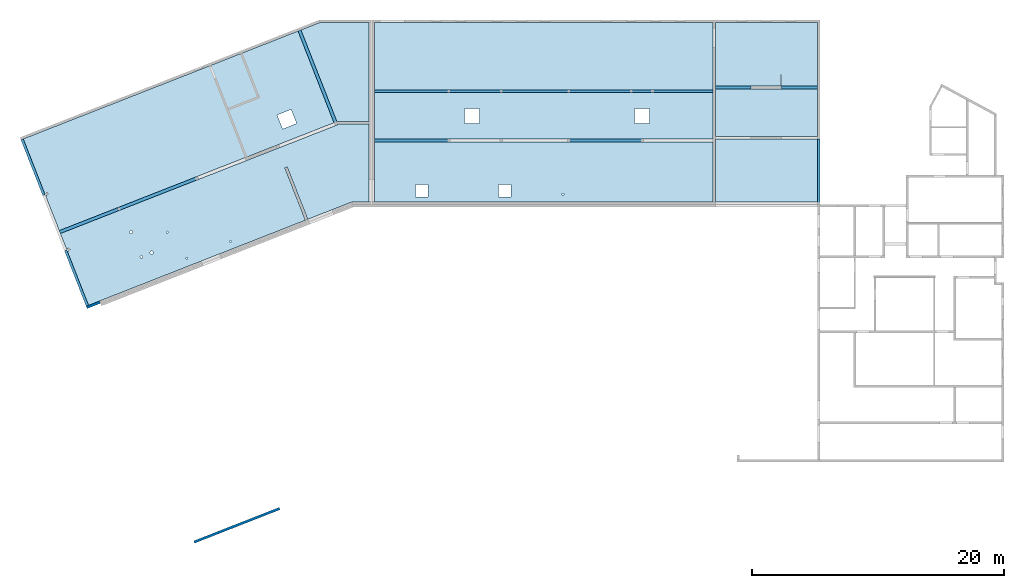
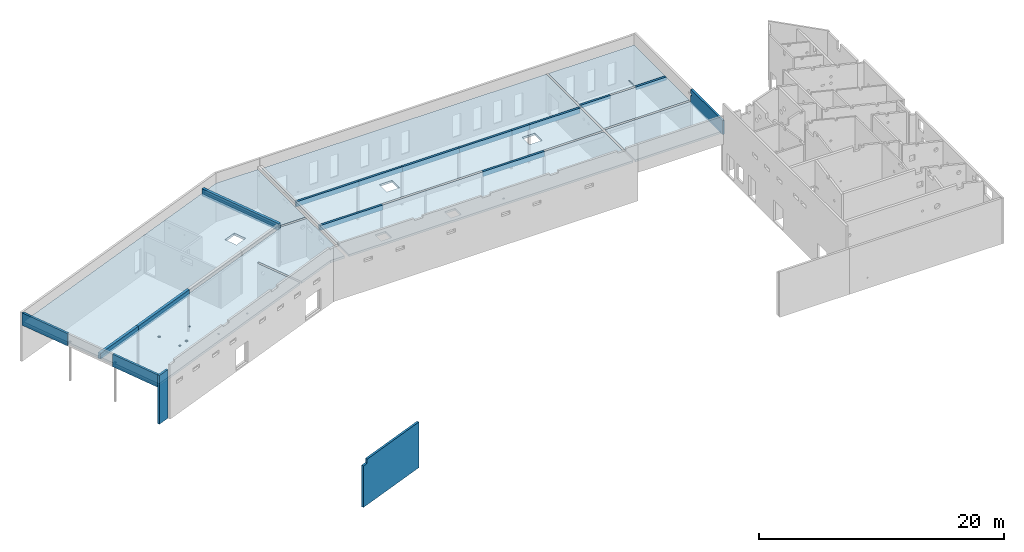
# One storey, part 2 of 13: 16 beams, 3 slabs, 2 walls, 15 openings.
"""IFC2X3 building model written with IfcOpenShell, lengths in metres."""

import ifcopenshell
import ifcopenshell.guid

model = None  # the IFC model being written
_history = None  # IfcOwnerHistory: only IFC2X3 demands one
_inside = {}  # id of a spatial element -> (the spatial element, [elements in it])
_under = {}  # id of a project, library or spatial element -> (it, [spatial elements below it])
_declared = {}  # id of a project -> (the project, [libraries it declares])
_typed = {}  # id of a type object -> (the type object, [elements of that type])
_made_of = {}  # id of a material, layer set ... -> (it, [elements and type objects made of it])


def new_model(schema):
    """Start an empty IFC model of exactly this schema.

    Asked for "IFC4X3", IfcOpenShell would pick the latest addendum, in which some entities
    have other attributes; the version numbers below select the first issue.
    IFC2X3 requires an IfcOwnerHistory on every rooted entity: one is made here for all.
    """
    global model, _history
    if schema == "IFC4X3":
        model = ifcopenshell.file(schema_version=(4, 3, 0, 0))
    else:
        model = ifcopenshell.file(schema=schema)
    _inside.clear()
    _under.clear()
    _declared.clear()
    _typed.clear()
    _made_of.clear()
    _history = None
    if model.schema == "IFC2X3":
        org = make("IfcOrganization", Name="unknown")
        user = make(
            "IfcPersonAndOrganization",
            ThePerson=make("IfcPerson", FamilyName="unknown"),
            TheOrganization=org,
        )
        app = make(
            "IfcApplication",
            ApplicationDeveloper=org,
            Version="unknown",
            ApplicationFullName="unknown",
            ApplicationIdentifier="unknown",
        )
        _history = make(
            "IfcOwnerHistory",
            OwningUser=user,
            OwningApplication=app,
            ChangeAction="ADDED",
            CreationDate=0,
        )
    return model


def make(cls, **values):
    """One entity of the class cls with the attributes given. An attribute that is None is left unset."""
    return model.create_entity(
        cls, **{name: value for name, value in values.items() if value is not None}
    )


def entity(cls, *values):
    """Any entity or typed value of the class cls, its attributes in the order of the schema. None: left unset."""
    e = model.create_entity(cls)
    for i, value in enumerate(values):
        if value is not None:
            e[i] = value
    return e


def rooted(cls, **values):
    """An entity with a GlobalId (a new one), such as an element, a storey or a relation."""
    return make(cls, GlobalId=ifcopenshell.guid.new(), OwnerHistory=_history, **values)


def si_unit(unit_type, name, prefix=None):
    """IfcSIUnit, for example si_unit("LENGTHUNIT", "METRE", prefix="MILLI")."""
    return make("IfcSIUnit", UnitType=unit_type, Prefix=prefix, Name=name)


def converted_unit(unit_type, name, factor, base, dimensions=None, offset=None):
    """IfcConversionBasedUnit, such as the inch: factor (a typed value) times the base unit."""
    return make(
        "IfcConversionBasedUnit"
        if offset is None
        else "IfcConversionBasedUnitWithOffset",
        ConversionOffset=offset,
        Dimensions=None
        if dimensions is None
        else entity("IfcDimensionalExponents", *dimensions),
        UnitType=unit_type,
        Name=name,
        ConversionFactor=make(
            "IfcMeasureWithUnit", ValueComponent=factor, UnitComponent=base
        ),
    )


def assignment(units):
    """IfcUnitAssignment: the units of a project."""
    return None if units is None else make("IfcUnitAssignment", Units=units)


def point(xyz):
    """IfcCartesianPoint."""
    return None if xyz is None else make("IfcCartesianPoint", Coordinates=xyz)


def direction(xyz):
    """IfcDirection."""
    return None if xyz is None else make("IfcDirection", DirectionRatios=xyz)


def frame(location, z_axis=None, x_axis=None):
    """IfcAxis2Placement3D, a coordinate frame: its origin and axes. An axis left out is left unset."""
    return make(
        "IfcAxis2Placement3D",
        Location=point(location),
        Axis=direction(z_axis),
        RefDirection=direction(x_axis),
    )


def frame_2d(location, x_axis=None):
    """IfcAxis2Placement2D, a coordinate frame in the plane: its origin and x axis."""
    return make(
        "IfcAxis2Placement2D", Location=point(location), RefDirection=direction(x_axis)
    )


def origin():
    """The frame at (0, 0, 0) with its axes left unset."""
    return frame((0.0, 0.0, 0.0))


def origin_with_axes():
    """The frame at (0, 0, 0) with the z axis (0, 0, 1) and the x axis (1, 0, 0) written out."""
    return frame((0.0, 0.0, 0.0), z_axis=(0.0, 0.0, 1.0), x_axis=(1.0, 0.0, 0.0))


def origin_2d_with_axis():
    """The frame at (0, 0) in the plane with the x axis (1, 0) written out."""
    return frame_2d((0.0, 0.0), x_axis=(1.0, 0.0))


def place(relative_to, where):
    """IfcLocalPlacement: puts the frame where relative to a parent placement (None: the world)."""
    return make(
        "IfcLocalPlacement", PlacementRelTo=relative_to, RelativePlacement=where
    )


def context(
    kind, dimensions, precision=None, world=None, true_north=None, identifier=None
):
    """IfcGeometricRepresentationContext, for example the 3D "Model" context."""
    return make(
        "IfcGeometricRepresentationContext",
        ContextIdentifier=identifier,
        ContextType=kind,
        CoordinateSpaceDimension=dimensions,
        Precision=precision,
        WorldCoordinateSystem=world,
        TrueNorth=true_north,
    )


def subcontext(parent, identifier, kind, view, scale=None):
    """IfcGeometricRepresentationSubContext, for example "Body" below "Model"."""
    return make(
        "IfcGeometricRepresentationSubContext",
        ContextIdentifier=identifier,
        ContextType=kind,
        ParentContext=parent,
        TargetScale=scale,
        TargetView=view,
    )


def project(units=None, contexts=None):
    """IfcProject with its units and contexts."""
    return rooted(
        "IfcProject",
        Name="project",
        RepresentationContexts=contexts,
        UnitsInContext=assignment(units),
    )


def spatial(cls, under=None, at=None, **own):
    """A site, building, storey or space (cls), placed at a placement, below another one or the project."""
    s = rooted(cls, ObjectPlacement=at, **own)
    if under is not None:
        _under.setdefault(under.id(), (under, []))[1].append(s)
    return s


def polyline(points):
    """IfcPolyline through the points."""
    return make("IfcPolyline", Points=[point(p) for p in points])


def profile(cls, at=None, kind="AREA", **sizes):
    """A parametric profile (cls). Its sizes go by their IFC names, for example OverallWidth=200.0."""
    return make(cls, ProfileType=kind, Position=at, **sizes)


def rectangle(**sizes):
    """IfcRectangleProfileDef."""
    return profile("IfcRectangleProfileDef", **sizes)


def circle(**sizes):
    """IfcCircleProfileDef."""
    return profile("IfcCircleProfileDef", **sizes)


def outline(outer, holes=None, kind="AREA"):
    """IfcArbitraryClosedProfileDef: a profile drawn as a closed curve; with holes, ...WithVoids."""
    if holes is None:
        return make("IfcArbitraryClosedProfileDef", ProfileType=kind, OuterCurve=outer)
    return make(
        "IfcArbitraryProfileDefWithVoids",
        ProfileType=kind,
        OuterCurve=outer,
        InnerCurves=holes,
    )


def extrude(swept, where, along, depth):
    """IfcExtrudedAreaSolid: the profile swept, set in the frame where, extruded along a direction by depth."""
    return make(
        "IfcExtrudedAreaSolid",
        SweptArea=swept,
        Position=where,
        ExtrudedDirection=direction(along),
        Depth=depth,
    )


def faces_of(points, faces, orient=None, outer=None):
    """IfcFace entities. A face is a list of loops; a loop is a list of indices into points, from 0.

    orient and outer hold one flag for each loop. By default every Orientation is true, the
    first loop of a face is its IfcFaceOuterBound and the others are IfcFaceBound.
    """
    made = []
    for i, loops in enumerate(faces):
        bounds = []
        for j, loop in enumerate(loops):
            is_outer = j == 0 if outer is None else outer[i][j]
            bounds.append(
                make(
                    "IfcFaceOuterBound" if is_outer else "IfcFaceBound",
                    Bound=make("IfcPolyLoop", Polygon=[points[k] for k in loop]),
                    Orientation=True if orient is None else orient[i][j],
                )
            )
        made.append(make("IfcFace", Bounds=bounds))
    return made


def faceted_brep(points, faces, orient=None, outer=None, voids=None):
    """IfcFacetedBrep: a solid bounded by flat faces; with voids (closed shells), ...WithVoids."""
    shared = [point(p) for p in points]
    hull = make("IfcClosedShell", CfsFaces=faces_of(shared, faces, orient, outer))
    if voids is None:
        return make("IfcFacetedBrep", Outer=hull)
    return make(
        "IfcFacetedBrepWithVoids",
        Outer=hull,
        Voids=[
            make(cls, CfsFaces=faces_of(shared, fs, o, b)) for cls, fs, o, b in voids
        ],
    )


def shape(context_of_items, identifier, shape_type, items):
    """IfcShapeRepresentation: the items that make up one representation, for example the "Body"."""
    return make(
        "IfcShapeRepresentation",
        ContextOfItems=context_of_items,
        RepresentationIdentifier=identifier,
        RepresentationType=shape_type,
        Items=items,
    )


def material(Name=None, Category=None):
    """IfcMaterial."""
    return make("IfcMaterial", Name=Name, Category=Category)


def layer(
    of_material, thickness, ventilated=None, Name=None, Category=None, Priority=None
):
    """IfcMaterialLayer: one layer of a wall or slab, of a material (None: an air gap)."""
    return make(
        "IfcMaterialLayer",
        Material=of_material,
        LayerThickness=thickness,
        IsVentilated=ventilated,
        Name=Name,
        Category=Category,
        Priority=Priority,
    )


def layer_set(layers, Name=None):
    """IfcMaterialLayerSet."""
    return make("IfcMaterialLayerSet", MaterialLayers=layers, LayerSetName=Name)


def layer_usage(for_layer_set, set_direction, sense, offset, extent=None):
    """IfcMaterialLayerSetUsage: how a layer set lies in its element."""
    return make(
        "IfcMaterialLayerSetUsage",
        ForLayerSet=for_layer_set,
        LayerSetDirection=set_direction,
        DirectionSense=sense,
        OffsetFromReferenceLine=offset,
        ReferenceExtent=extent,
    )


def made_of(thing, what):
    """Note that an element or type object is made of a material, layer set ...; save() writes the relation."""
    if what is not None:
        _made_of.setdefault(what.id(), (what, []))[1].append(thing)
    return thing


def element(
    cls,
    number,
    at=None,
    inside=None,
    cuts=None,
    type_object=None,
    material=None,
    context=None,
    identifier="Body",
    shape_type=None,
    held_by="IfcProductDefinitionShape",
    body=None,
    shapes=None,
    **own,
):
    """One element of the class cls, such as IfcWall. Its Tag is "e" and its number.

    at: its placement. inside: the storey or other place that contains it. cuts: it is an
    opening in that element (IfcRelVoidsElement). A single representation is given by context,
    identifier, shape_type and body (its items); several are given by shapes. held_by: the class
    of the entity that holds the representations. save() writes the other relations.
    """
    e = rooted(cls, Tag="e%d" % number, ObjectPlacement=at, **own)
    if body is not None:
        shapes = [shape(context, identifier, shape_type, body)]
    if shapes is not None:
        e.Representation = make(held_by, Representations=shapes)
    if inside is not None:
        _inside.setdefault(inside.id(), (inside, []))[1].append(e)
    if cuts is not None:
        rooted(
            "IfcRelVoidsElement", RelatingBuildingElement=cuts, RelatedOpeningElement=e
        )
    if type_object is not None:
        _typed.setdefault(type_object.id(), (type_object, []))[1].append(e)
    return made_of(e, material)


def aggregate(whole, parts):
    """IfcRelAggregates: a whole, such as a stair, and the parts it consists of."""
    return rooted("IfcRelAggregates", RelatingObject=whole, RelatedObjects=parts)


def save(model, path):
    """Write the relations noted so far, then the file.

    IfcRelAggregates (storeys below a building ...), IfcRelContainedInSpatialStructure (elements
    in a storey), IfcRelDefinesByType, IfcRelAssociatesMaterial and IfcRelDeclares: one each for
    every whole, place, type object, material and project.
    """
    for whole, parts in _under.values():
        aggregate(whole, parts)
    for where, things in _inside.values():
        rooted(
            "IfcRelContainedInSpatialStructure",
            RelatedElements=things,
            RelatingStructure=where,
        )
    for kind, things in _typed.values():
        rooted("IfcRelDefinesByType", RelatedObjects=things, RelatingType=kind)
    for what, things in _made_of.values():
        rooted("IfcRelAssociatesMaterial", RelatedObjects=things, RelatingMaterial=what)
    for by, libraries in _declared.values():
        rooted("IfcRelDeclares", RelatingContext=by, RelatedDefinitions=libraries)
    model.write(path)


model = new_model("IFC2X3")

# Units and contexts
model_context = context("Model", 3, precision=1e-05, world=origin(), true_north=direction((-0.407059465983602, -0.913401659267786)))
body_context = subcontext(model_context, "Body", "Model", "MODEL_VIEW")
ifc_project = project(units=[si_unit("LENGTHUNIT", "METRE"), si_unit("AREAUNIT", "SQUARE_METRE"), si_unit("VOLUMEUNIT", "CUBIC_METRE"), si_unit("MASSUNIT", "GRAM", prefix="KILO"), converted_unit("PLANEANGLEUNIT", "DEGREE", entity("IfcPlaneAngleMeasure", 0.0174532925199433), si_unit("PLANEANGLEUNIT", "RADIAN"), dimensions=[0, 0, 0, 0, 0, 0, 0])], contexts=[model_context])

# Site, buildings, storey
site_placement = place(None, origin())
site = spatial("IfcSite", under=ifc_project, at=site_placement, Name="Site", CompositionType="ELEMENT")
building_1_placement = place(site_placement, origin())
building_1 = spatial("IfcBuilding", under=site, at=building_1_placement, Name="Site", CompositionType="COMPLEX")
building_2_placement = place(building_1_placement, origin())
building_2 = spatial("IfcBuilding", under=building_1, at=building_2_placement, Name="Bâtiments", CompositionType="ELEMENT")
storey_placement = place(building_2_placement, frame((0.0, 0.0, -0.14)))
storey = spatial("IfcBuildingStorey", under=building_2, at=storey_placement, Name="RDC", CompositionType="ELEMENT", Elevation=-0.14)

# Beams
ifc_material_1 = material(Name="Béton")
beam_1_placement = place(storey_placement, frame((63.2133902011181, 4.15588101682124, 3.54), z_axis=(0.0, 0.0, 1.0), x_axis=(-1.0, -4.68224899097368e-10, 0.0)))
element("IfcBeam", 1, at=beam_1_placement, inside=storey, material=ifc_material_1, Name="Po 112", context=body_context, shape_type="SweptSolid", body=[
    extrude(rectangle(XDim=0.200000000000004, YDim=0.3, at=frame_2d((0.100000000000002, 0.15), x_axis=(1.0, 0.0))), frame((0.0, 0.0, 0.0), z_axis=(1.0, 0.0, 0.0), x_axis=(0.0, 1.0, 0.0)), (0.0, 0.0, 1.0), 2.84902421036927),
])
ifc_material_2 = material(Name="Béton")
beam_2_placement = place(storey_placement, frame((43.4924504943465, -0.24827585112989, 3.34)))
element("IfcBeam", 2, at=beam_2_placement, inside=storey, material=ifc_material_2, Name="Po 116", context=body_context, shape_type="Brep", body=[
    faceted_brep([(5.82071745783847, 5.0885875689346e-06, 0.0), (9.36488504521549e-11, 0.0, 0.0), (9.36488504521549e-11, 0.0, 0.5), (5.82071745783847, 5.0885875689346e-06, 0.5), (-7.27595761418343e-15, 0.200000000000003, 0.0), (-7.27595761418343e-15, 0.200000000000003, 0.5), (5.82071745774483, 0.200005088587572, 0.0), (5.82071745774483, 0.200005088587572, 0.5)], [[[0, 1, 2, 3]], [[1, 4, 5, 2]], [[4, 6, 7, 5]], [[6, 0, 3, 7]], [[7, 3, 2, 5]], [[0, 6, 4, 1]]], orient=[[False], [False], [False], [False], [False], [False]]),
])
ifc_material_3 = material(Name="Béton")
beam_3_placement = place(storey_placement, frame((28.0826663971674, -0.248270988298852, 3.34)))
element("IfcBeam", 3, at=beam_3_placement, inside=storey, material=ifc_material_3, Name="Po 113", context=body_context, shape_type="Brep", body=[
    faceted_brep([(5.93924502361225, 2.78078732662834e-09, 0.0), (4.66032241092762e-07, 0.0, 0.0), (4.66032241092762e-07, 0.0, 0.5), (5.93924502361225, 2.78078732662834e-09, 0.5), (-3.63797880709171e-15, 0.200000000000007, 0.0), (-3.63797880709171e-15, 0.200000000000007, 0.5), (5.93924502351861, 0.20000000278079, 0.0), (5.93924502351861, 0.20000000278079, 0.5)], [[[0, 1, 2, 3]], [[1, 4, 5, 2]], [[4, 6, 7, 5]], [[6, 0, 3, 7]], [[7, 3, 2, 5]], [[0, 6, 4, 1]]], orient=[[False], [False], [False], [False], [False], [False]]),
])
ifc_material_4 = material(Name="Béton")
beam_4_placement = place(storey_placement, frame((57.9607578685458, 4.15588101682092, 3.54), z_axis=(0.0, 0.0, 1.0), x_axis=(-1.0, -4.68223925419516e-10, 0.0)))
element("IfcBeam", 4, at=beam_4_placement, inside=storey, material=ifc_material_4, Name="Po 111", context=body_context, shape_type="SweptSolid", body=[
    extrude(rectangle(XDim=0.200000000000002, YDim=0.3, at=frame_2d((0.100000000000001, 0.15), x_axis=(1.0, 0.0))), frame((0.0, 0.0, 0.0), z_axis=(1.0, 0.0, 0.0), x_axis=(0.0, 1.0, 0.0)), (0.0, 0.0, 1.0), 2.84827647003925),
])
ifc_material_5 = material(Name="Béton")
beam_5_placement = place(storey_placement, frame((54.912481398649, 3.85172913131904, 3.34), z_axis=(0.0, 0.0, 1.0), x_axis=(-1.0, -4.68216983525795e-10, 0.0)))
element("IfcBeam", 5, at=beam_5_placement, inside=storey, material=ifc_material_5, Name="Po 110", context=body_context, shape_type="SweptSolid", body=[
    extrude(rectangle(XDim=0.200000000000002, YDim=0.5, at=frame_2d((0.100000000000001, 0.25), x_axis=(1.0, 0.0))), frame((0.0, 0.0, 0.0), z_axis=(1.0, 0.0, 0.0), x_axis=(0.0, 1.0, 0.0)), (0.0, 0.0, 1.0), 4.77931550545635),
])
ifc_material_6 = material(Name="Béton")
beam_6_placement = place(storey_placement, frame((50.1331658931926, 3.85172912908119, 3.34), z_axis=(0.0, 0.0, 1.0), x_axis=(-1.0, -4.68204938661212e-10, 0.0)))
element("IfcBeam", 6, at=beam_6_placement, inside=storey, material=ifc_material_6, Name="Po 109", context=body_context, shape_type="SweptSolid", body=[
    extrude(rectangle(XDim=0.200000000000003, YDim=0.5, at=frame_2d((0.100000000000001, 0.25), x_axis=(1.0, 0.0))), frame((0.0, 0.0, 0.0), z_axis=(1.0, 0.0, 0.0), x_axis=(0.0, 1.0, 0.0)), (0.0, 0.0, 1.0), 1.66984923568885),
])
ifc_material_7 = material(Name="Béton")
beam_7_placement = place(storey_placement, frame((48.4633166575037, 3.8517291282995, 3.34), z_axis=(0.0, 0.0, 1.0), x_axis=(-1.0, -4.68242613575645e-10, 0.0)))
element("IfcBeam", 7, at=beam_7_placement, inside=storey, material=ifc_material_7, Name="Po 108", context=body_context, shape_type="SweptSolid", body=[
    extrude(rectangle(XDim=0.200000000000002, YDim=0.5, at=frame_2d((0.100000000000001, 0.25), x_axis=(1.0, 0.0))), frame((0.0, 0.0, 0.0), z_axis=(1.0, 0.0, 0.0), x_axis=(0.0, 1.0, 0.0)), (0.0, 0.0, 1.0), 4.97099575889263),
])
ifc_material_8 = material(Name="Béton")
beam_8_placement = place(storey_placement, frame((43.4923208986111, 3.85172912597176, 3.34), z_axis=(0.0, 0.0, 1.0), x_axis=(-1.0, -4.68210930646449e-10, 0.0)))
element("IfcBeam", 8, at=beam_8_placement, inside=storey, material=ifc_material_8, Name="Po 107", context=body_context, shape_type="SweptSolid", body=[
    extrude(rectangle(XDim=0.200000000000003, YDim=0.5, at=frame_2d((0.100000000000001, 0.25), x_axis=(1.0, 0.0))), frame((0.0, 0.0, 0.0), z_axis=(1.0, 0.0, 0.0), x_axis=(0.0, 1.0, 0.0)), (0.0, 0.0, 1.0), 5.37385864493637),
])
ifc_material_9 = material(Name="Béton")
beam_9_placement = place(storey_placement, frame((38.1184622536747, 3.85172912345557, 3.34), z_axis=(0.0, 0.0, 1.0), x_axis=(-1.0, -4.68205681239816e-10, 0.0)))
element("IfcBeam", 9, at=beam_9_placement, inside=storey, material=ifc_material_9, Name="Po 106", context=body_context, shape_type="SweptSolid", body=[
    extrude(rectangle(XDim=0.200000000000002, YDim=0.5, at=frame_2d((0.100000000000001, 0.25), x_axis=(1.0, 0.0))), frame((0.0, 0.0, 0.0), z_axis=(1.0, 0.0, 0.0), x_axis=(0.0, 1.0, 0.0)), (0.0, 0.0, 1.0), 4.09655083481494),
])
ifc_material_10 = material(Name="Béton")
beam_10_placement = place(storey_placement, frame((28.0826349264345, 3.65172911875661, 3.34)))
element("IfcBeam", 10, at=beam_10_placement, inside=storey, material=ifc_material_10, Name="Po 105", context=body_context, shape_type="Brep", body=[
    faceted_brep([(5.93927649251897, 2.78093375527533e-09, 0.0), (-3.63797880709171e-15, 0.0, 0.0), (-3.63797880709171e-15, 0.0, 0.5), (5.93927649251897, 2.78093375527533e-09, 0.5), (4.65844994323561e-07, 0.200000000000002, 0.0), (4.65844994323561e-07, 0.200000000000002, 0.5), (5.93927649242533, 0.200000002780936, 0.0), (5.93927649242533, 0.200000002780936, 0.5)], [[[0, 1, 2, 3]], [[1, 4, 5, 2]], [[4, 6, 7, 5]], [[6, 0, 3, 7]], [[7, 3, 2, 5]], [[0, 6, 4, 1]]], orient=[[False], [False], [False], [False], [False], [False]]),
])

# Beam, opening
ifc_material_11 = material(Name="Béton")
beam_11_placement = place(storey_placement, frame((63.2133901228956, -5.21847096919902, 3.64)))
beam_11 = element("IfcBeam", 11, at=beam_11_placement, inside=storey, material=ifc_material_11, Name="PoR 126", context=body_context, shape_type="Brep", body=[
    faceted_brep([(4.94595915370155e-06, 0.0, 0.0), (4.94595915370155e-06, 0.0, 1.4), (0.200004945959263, 9.36406649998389e-11, 1.4), (0.200004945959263, 9.36406649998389e-11, 0.0), (0.0, 5.17019998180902, 0.0), (0.0, 5.17019998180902, 1.4), (0.200000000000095, 5.17019998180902, 0.0), (0.200000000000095, 5.17019998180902, 1.4)], [[[0, 1, 2, 3]], [[4, 5, 1, 0]], [[6, 7, 5, 4]], [[3, 2, 7, 6]], [[2, 1, 5, 7]], [[6, 4, 0, 3]]], orient=[[False], [False], [False], [False], [False], [False]]),
])
opening_1_placement = place(beam_11_placement, frame((0.0, 5.17019998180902, 0.8), z_axis=(0.0, 0.0, 1.0), x_axis=(9.56628228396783e-07, -0.999999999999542, 0.0)))
element("IfcOpeningElement", 12, at=opening_1_placement, cuts=beam_11, Name="Percement dans mur", ObjectType="Opening", context=body_context, shape_type="SweptSolid", body=[
    extrude(outline(polyline([(0.0, 0.0), (0.150000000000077, -2.80782255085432e-15), (0.150000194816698, 0.200000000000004), (1.91325645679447e-07, 0.200000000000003), (0.0, 0.0)])), origin_with_axes(), (0.0, 0.0, 1.0), 0.2),
])

# Beams
ifc_material_12 = material(Name="Béton")
beam_12_placement = place(storey_placement, frame((3.49696616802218, -13.2939565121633, 3.64)))
element("IfcBeam", 13, at=beam_12_placement, inside=storey, material=ifc_material_12, Name="PoR 124", context=body_context, shape_type="Brep", body=[
    faceted_brep([(-4.54747350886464e-16, 4.38109553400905, 0.0), (0.186182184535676, 4.4541447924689, 0.0), (0.186182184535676, 4.4541447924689, 1.24), (-4.54747350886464e-16, 4.38109553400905, 1.24), (1.71893879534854, 0.0, 0.0), (1.71893879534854, 0.0, 1.24), (1.90512079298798, 0.0730497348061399, 0.0), (1.90512079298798, 0.0730497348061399, 1.24)], [[[0, 1, 2, 3]], [[4, 0, 3, 5]], [[6, 7, 2, 1]], [[6, 4, 5, 7]], [[7, 5, 3, 2]], [[4, 6, 1, 0]]], orient=[[False], [False], [False], [False], [False], [False]]),
])
ifc_material_13 = material(Name="Béton")
beam_13_placement = place(storey_placement, frame((0.0365246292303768, -4.51275404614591, 3.64)))
element("IfcBeam", 14, at=beam_13_placement, inside=storey, material=ifc_material_13, Name="PoR 122", context=body_context, shape_type="Brep", body=[
    faceted_brep([(1.73404355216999, 0.0, 0.0), (-1.13686837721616e-16, 4.41966295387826, 0.0), (-1.13686837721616e-16, 4.41966295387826, 1.24), (1.73404355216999, 0.0, 1.24), (0.186182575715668, 4.49271121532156, 0.0), (0.186182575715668, 4.49271121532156, 1.24), (1.92022573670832, 0.0730492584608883, 0.0), (1.92022573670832, 0.0730492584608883, 1.24)], [[[0, 1, 2, 3]], [[1, 4, 5, 2]], [[4, 6, 7, 5]], [[6, 0, 3, 7]], [[7, 3, 2, 5]], [[0, 6, 4, 1]]], orient=[[False], [False], [False], [False], [False], [False]]),
])
ifc_material_14 = material(Name="Béton")
beam_14_placement = place(storey_placement, frame((3.07655206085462, -7.52649587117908, 3.64)))
element("IfcBeam", 15, at=beam_14_placement, inside=storey, material=ifc_material_14, Name="PoR 101", context=body_context, shape_type="Brep", body=[
    faceted_brep([(4.69988366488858, 2.07640873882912, 0.0), (4.60683949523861, 2.03990803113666, 0.0), (4.60683949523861, 2.03990803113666, 0.6), (4.69988366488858, 2.07640873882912, 0.6), (4.6981181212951, 1.80722914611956, 0.0), (4.6981181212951, 1.80722914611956, 0.6), (0.0912996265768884, 0.0, 0.0), (0.0912996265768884, 0.0, 0.6), (4.54747350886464e-16, 0.232732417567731, 0.0), (4.54747350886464e-16, 0.232732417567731, 0.6), (4.69986266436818, 2.07646227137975, 0.0), (4.69986266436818, 2.07646227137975, 0.6)], [[[0, 1, 2, 3]], [[1, 4, 5, 2]], [[4, 6, 7, 5]], [[6, 8, 9, 7]], [[8, 10, 11, 9]], [[10, 0, 3, 11]], [[11, 3, 2, 5, 7, 9]], [[0, 10, 8, 6, 4, 1]]], orient=[[False], [False], [False], [False], [False], [False], [False], [False]]),
])
ifc_material_15 = material(Name="Béton")
beam_15_placement = place(storey_placement, frame((7.68339155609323, -5.71932025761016, 3.64)))
element("IfcBeam", 16, at=beam_15_placement, inside=storey, material=ifc_material_15, Name="PoR 102", context=body_context, shape_type="Brep", body=[
    faceted_brep([(6.25316554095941, 2.68575804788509, 0.0), (6.34445201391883, 2.45307673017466, 0.0), (6.34445201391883, 2.45307673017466, 0.6), (6.25316554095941, 2.68575804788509, 0.6), (0.091299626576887, 0.0, 0.0), (0.091299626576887, 0.0, 0.6), (9.09494701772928e-16, 0.232732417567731, 0.0), (9.09494701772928e-16, 0.232732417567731, 0.6), (6.25315238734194, 2.68580914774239, 0.0), (6.25315238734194, 2.68580914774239, 0.6)], [[[0, 1, 2, 3]], [[1, 4, 5, 2]], [[4, 6, 7, 5]], [[6, 8, 9, 7]], [[8, 0, 3, 9]], [[9, 3, 2, 5, 7]], [[0, 8, 6, 4, 1]]], orient=[[False], [False], [False], [False], [False], [False], [False]]),
])
ifc_material_16 = material(Name="Béton")
beam_16_placement = place(storey_placement, frame((25.1841629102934, 1.13782570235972, 3.64), z_axis=(0.0, 0.0, 1.0), x_axis=(-0.365246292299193, 0.930910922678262, 0.0)))
element("IfcBeam", 17, at=beam_16_placement, inside=storey, material=ifc_material_16, Name="PoR 125", context=body_context, shape_type="SweptSolid", body=[
    extrude(rectangle(XDim=0.25, YDim=0.7, at=frame_2d((0.125, 0.35), x_axis=(1.0, 0.0))), frame((0.0, 0.0, 0.0), z_axis=(1.0, 0.0, 0.0), x_axis=(0.0, 1.0, 0.0)), (0.0, 0.0, 1.0), 8.03920775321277),
])

# Slab, opening
ifc_material_17 = material(Name="Béton")
slab_1_placement = place(storey_placement, frame((55.1124812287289, -5.01895147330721, 3.64)))
slab_1 = element("IfcSlab", 18, at=slab_1_placement, inside=storey, material=ifc_material_17, PredefinedType="FLOOR", context=body_context, shape_type="SweptSolid", body=[
    extrude(outline(polyline([(2.36654159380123e-09, 0.0), (2.84827647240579, 1.33363209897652e-09), (5.25188458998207, 1.12539419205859e-09), (8.1008807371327, 1.25422957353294e-09), (8.10088073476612, 5.05450628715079), (0.0, 5.05450628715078), (2.36654159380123e-09, 0.0)])), frame((1.6741115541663e-07, 9.1748324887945, 0.0), z_axis=(0.0, 0.0, 1.0), x_axis=(1.0, 0.0, 0.0)), (0.0, 0.0, 1.0), 0.2),
    extrude(outline(polyline([(1.71746105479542e-07, 4.97068048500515), (0.0, 0.0), (8.10088787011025, 3.34478880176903e-07), (8.10088090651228, 4.97068048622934), (5.25188476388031, 4.97068048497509), (2.84827664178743, 4.97068048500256), (1.71746105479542e-07, 4.97068048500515)])), origin_with_axes(), (0.0, 0.0, 1.0), 0.2),
    extrude(outline(polyline([(2.84827647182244, 1.33363209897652e-09), (5.25188458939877, 1.12279667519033e-09), (8.10088073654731, 1.2241980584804e-09), (8.10088073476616, 3.80415200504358), (5.25188459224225, 3.80415200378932), (0.0, 3.80415200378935), (1.78112532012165e-09, 0.0), (2.84827647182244, 1.33363209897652e-09)])), frame((1.69871338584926e-07, 5.17068048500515, 0.0), z_axis=(0.0, 0.0, 1.0), x_axis=(1.0, 0.0, 0.0)), (0.0, 0.0, 1.0), 0.2),
])
opening_2_placement = place(slab_1_placement, frame((5.15409507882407, 9.23017295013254, 0.0)))
element("IfcOpeningElement", 19, at=opening_2_placement, cuts=slab_1, Name="Trémie dans dalle", ObjectType="Opening", context=body_context, shape_type="SweptSolid", body=[
    extrude(rectangle(XDim=0.1, YDim=0.85, at=frame_2d((0.0, 0.0), x_axis=(-1.0, 0.0))), frame((0.05, 0.425, 0.0), z_axis=(0.0, 0.0, 1.0), x_axis=(1.0, 0.0, 0.0)), (0.0, 0.0, 1.0), 0.2),
])

# Slab, openings
ifc_material_18 = material(Name="Béton")
slab_2_placement = place(storey_placement, frame((28.08261473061, -5.01895115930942, 3.64)))
slab_2 = element("IfcSlab", 20, at=slab_2_placement, inside=storey, material=ifc_material_18, PredefinedType="FLOOR", context=body_context, shape_type="SweptSolid", body=[
    extrude(outline(polyline([(0.0, 0.0), (26.8298460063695, 1.25624283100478e-08), (26.8298460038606, 5.35865818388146), (1.24815205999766e-05, 5.35865818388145), (0.0, 0.0)])), frame((2.06616694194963e-05, 8.87068027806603, 0.0), z_axis=(0.0, 0.0, 1.0), x_axis=(1.0, 0.0, 0.0)), (0.0, 0.0, 1.0), 0.2),
    extrude(outline(polyline([(0.0, 4.77068039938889), (0.0, 5.7871148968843e-05), (26.8298666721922, 0.0), (26.8298666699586, 4.77068039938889), (0.0, 4.77068039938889)])), origin_with_axes(), (0.0, 0.0, 1.0), 0.2),
    extrude(rectangle(XDim=26.8298464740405, YDim=3.69999987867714, at=frame_2d((-13.4149232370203, -1.84999993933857), x_axis=(-1.0, 0.0))), frame((26.8298666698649, 8.67068027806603, 0.0), z_axis=(0.0, 0.0, 1.0), x_axis=(1.0, 0.0, 0.0)), (0.0, 0.0, 1.0), 0.2),
])
opening_3_placement = place(slab_2_placement, frame((3.25939159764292, 0.388199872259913, 0.0)))
element("IfcOpeningElement", 21, at=opening_3_placement, cuts=slab_2, Name="Trémie dans dalle", ObjectType="Opening", context=body_context, shape_type="SweptSolid", body=[
    extrude(rectangle(XDim=1.0, YDim=1.0, at=frame_2d((0.0, 0.0), x_axis=(0.0, -1.0))), frame((0.5, 0.5, 0.0), z_axis=(0.0, 0.0, 1.0), x_axis=(1.0, 0.0, 0.0)), (0.0, 0.0, 1.0), 0.2),
])
opening_4_placement = place(slab_2_placement, frame((20.6248644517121, 6.21669204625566, 0.0)))
element("IfcOpeningElement", 22, at=opening_4_placement, cuts=slab_2, Name="Trémie dans dalle", ObjectType="Opening", context=body_context, shape_type="SweptSolid", body=[
    extrude(rectangle(XDim=1.2, YDim=1.2, at=frame_2d((-3.63797880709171e-15, 0.0), x_axis=(6.0632980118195e-15, -1.0))), frame((0.600000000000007, 0.600000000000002, 0.0), z_axis=(0.0, 0.0, 1.0), x_axis=(1.0, 0.0, 0.0)), (0.0, 0.0, 1.0), 0.2),
])
opening_5_placement = place(slab_2_placement, frame((7.13886877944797, 6.21670867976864, 0.0)))
element("IfcOpeningElement", 23, at=opening_5_placement, cuts=slab_2, Name="Trémie dans dalle", ObjectType="Opening", context=body_context, shape_type="SweptSolid", body=[
    extrude(rectangle(XDim=1.2, YDim=1.2, at=frame_2d((-1.09139364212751e-14, 0.0), x_axis=(6.0632980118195e-15, -1.0))), frame((0.600000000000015, 0.600000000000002, 0.0), z_axis=(0.0, 0.0, 1.0), x_axis=(1.0, 0.0, 0.0)), (0.0, 0.0, 1.0), 0.2),
])
opening_6_placement = place(slab_2_placement, frame((14.8679478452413, 0.528313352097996, 0.0)))
element("IfcOpeningElement", 24, at=opening_6_placement, cuts=slab_2, Name="Trémie dans dalle", ObjectType="Opening", context=body_context, shape_type="SweptSolid", body=[
    extrude(circle(Radius=0.0800000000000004, at=origin_2d_with_axis()), frame((0.0796697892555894, 0.0796697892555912, 0.0), z_axis=(0.0, 0.0, 1.0), x_axis=(1.0, 0.0, 0.0)), (0.0, 0.0, 1.0), 0.2),
])
opening_7_placement = place(slab_2_placement, frame((9.82548363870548, 0.388186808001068, 0.0)))
element("IfcOpeningElement", 25, at=opening_7_placement, cuts=slab_2, Name="Trémie dans dalle", ObjectType="Opening", context=body_context, shape_type="SweptSolid", body=[
    extrude(rectangle(XDim=1.0, YDim=1.0, at=frame_2d((7.27595761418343e-15, 0.0), x_axis=(0.0, -1.0))), frame((0.499999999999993, 0.5, 0.0), z_axis=(0.0, 0.0, 1.0), x_axis=(1.0, 0.0, 0.0)), (0.0, 0.0, 1.0), 0.2),
])

ifc_material_19 = material(Name="Béton")
slab_3_placement = place(storey_placement, frame((0.222706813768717, -13.2209060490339, 3.64)))
slab_3 = element("IfcSlab", 26, at=slab_3_placement, inside=storey, material=ifc_material_19, PredefinedType="FLOOR", context=body_context, shape_type="SweptSolid", body=[
    extrude(outline(polyline([(20.2627018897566, 6.82924748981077), (24.6465487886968, 8.54973040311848), (21.7924375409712, 15.8240638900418), (0.0, 7.2737216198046), (1.71108101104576, 2.91258470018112), (1.82953248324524, 2.98862546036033), (1.89747976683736, 3.01845042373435), (1.89657928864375, 3.01328552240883), (1.94624144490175, 2.97263566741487), (1.95670136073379, 2.96089518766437), (1.96519588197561, 2.94766296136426), (1.97151584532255, 2.93326480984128), (1.97550563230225, 2.91805526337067), (1.97706700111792, 2.90240883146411), (1.97616150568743, 2.88671078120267), (1.97281144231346, 2.87134765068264), (1.96709930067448, 2.85669773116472), (1.95916573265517, 2.84312175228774), (1.94920608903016, 2.83095399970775), (1.93746560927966, 2.82049408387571), (1.92423338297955, 2.81199956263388), (1.90983523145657, 2.80567959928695), (1.76765847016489, 2.76838361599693), (2.8538452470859, 0.0), (7.43740629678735, 1.79810538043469), (7.55372891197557, 1.84367632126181), (13.5974247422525, 4.21458441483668), (13.770456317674, 4.28241082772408), (20.0300220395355, 6.73781397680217), (20.2627018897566, 6.82924748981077)])), frame((0.0, 5.92714259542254, 0.0), z_axis=(0.0, 0.0, 1.0), x_axis=(1.0, 0.0, 0.0)), (0.0, 0.0, 1.0), 0.23),
    extrude(outline(polyline([(21.8946017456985, 14.2841273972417), (17.4838124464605, 12.5535381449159), (17.408979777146, 12.5237102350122), (17.176299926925, 12.4322767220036), (17.0494203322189, 12.3830552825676), (10.860001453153, 9.95461423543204), (10.8597391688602, 9.95456760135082), (4.81620135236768, 7.58372149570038), (4.69979391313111, 7.53828787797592), (4.58353389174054, 7.49250912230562), (0.0, 5.6944143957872), (0.492796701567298, 4.43841305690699), (0.611389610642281, 4.5145446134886), (0.680363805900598, 4.54482033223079), (0.679266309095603, 4.53852538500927), (0.728098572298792, 4.49855482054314), (0.73855848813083, 4.48681434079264), (0.747053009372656, 4.47358211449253), (0.753372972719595, 4.45918396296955), (0.75736275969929, 4.44397441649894), (0.758924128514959, 4.42832798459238), (0.758018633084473, 4.41262993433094), (0.754668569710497, 4.39726680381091), (0.74895642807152, 4.38261688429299), (0.741022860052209, 4.36904090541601), (0.731063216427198, 4.35687315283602), (0.7193227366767, 4.34641323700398), (0.706090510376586, 4.33791871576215), (0.691692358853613, 4.33159875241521), (0.549355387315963, 4.29426074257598), (2.23422423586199, 0.0), (19.4332987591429, 6.74816964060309), (17.8026001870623, 10.9043654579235), (17.988782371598, 10.9774147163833), (19.6194807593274, 6.82121936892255), (23.1387216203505, 8.20201659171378), (24.4947522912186, 8.20201431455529), (24.494766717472, 14.3955994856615), (21.8923965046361, 14.395599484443), (21.9842980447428, 14.3004548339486), (21.8946017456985, 14.2841273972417)])), frame((2.94515562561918, 0.0, 0.0), z_axis=(0.0, 0.0, 1.0), x_axis=(1.0, 0.0, 0.0)), (0.0, 0.0, 1.0), 0.23),
    extrude(outline(polyline([(2.84335490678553, 0.0), (5.41475753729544, 1.2040400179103e-09), (5.41477578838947, 7.83569386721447), (1.50062399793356, 7.83569386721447), (0.0, 7.24691857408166), (2.84335490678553, 0.0)])), frame((22.0251652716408, 14.5955994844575, 0.0), z_axis=(0.0, 0.0, 1.0), x_axis=(1.0, 0.0, 0.0)), (0.0, 0.0, 1.0), 0.23),
])
opening_8_placement = place(slab_3_placement, frame((20.1325012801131, 13.9787830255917, 0.0)))
element("IfcOpeningElement", 27, at=opening_8_placement, cuts=slab_3, Name="Trémie dans dalle", ObjectType="Opening", context=body_context, shape_type="SweptSolid", body=[
    extrude(rectangle(XDim=1.2, YDim=1.2, at=frame_2d((1.81898940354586e-15, 2.27373675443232e-16), x_axis=(0.365246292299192, -0.930910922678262))), frame((0.777694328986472, 0.777694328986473, 0.0), z_axis=(0.0, 0.0, 1.0), x_axis=(1.0, 0.0, 0.0)), (0.0, 0.0, 1.0), 0.23),
])
opening_9_placement = place(slab_3_placement, frame((9.27735729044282, 3.75046726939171, 0.0)))
element("IfcOpeningElement", 28, at=opening_9_placement, cuts=slab_3, Name="Trémie dans dalle", ObjectType="Opening", context=body_context, shape_type="SweptSolid", body=[
    extrude(circle(Radius=0.0999999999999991, at=frame_2d((1.81898940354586e-15, 1.81898940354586e-15), x_axis=(1.0, 0.0))), frame((0.0995872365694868, 0.0995872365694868, 0.0), z_axis=(0.0, 0.0, 1.0), x_axis=(1.0, 0.0, 0.0)), (0.0, 0.0, 1.0), 0.23),
])
opening_10_placement = place(slab_3_placement, frame((10.0585552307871, 4.04958546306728, 0.0)))
element("IfcOpeningElement", 29, at=opening_10_placement, cuts=slab_3, Name="Trémie dans dalle", ObjectType="Opening", context=body_context, shape_type="SweptSolid", body=[
    extrude(circle(Radius=0.125, at=frame_2d((-1.81898940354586e-15, -1.81898940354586e-15), x_axis=(1.0, 0.0))), frame((0.124484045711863, 0.124484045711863, 0.0), z_axis=(0.0, 0.0, 1.0), x_axis=(1.0, 0.0, 0.0)), (0.0, 0.0, 1.0), 0.23),
])
opening_11_placement = place(slab_3_placement, frame((12.8869839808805, 3.6488622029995, 0.0)))
element("IfcOpeningElement", 30, at=opening_11_placement, cuts=slab_3, Name="Trémie dans dalle", ObjectType="Opening", context=body_context, shape_type="SweptSolid", body=[
    extrude(circle(Radius=0.080000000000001, at=frame_2d((0.0, 1.81898940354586e-15), x_axis=(1.0, 0.0))), frame((0.0799286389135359, 0.0799286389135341, 0.0), z_axis=(0.0, 0.0, 1.0), x_axis=(1.0, 0.0, 0.0)), (0.0, 0.0, 1.0), 0.23),
])
opening_12_placement = place(slab_3_placement, frame((11.3527592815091, 5.73139929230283, 0.0)))
element("IfcOpeningElement", 31, at=opening_12_placement, cuts=slab_3, Name="Trémie dans dalle", ObjectType="Opening", context=body_context, shape_type="SweptSolid", body=[
    extrude(circle(Radius=0.0749999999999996, at=frame_2d((-5.45696821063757e-15, 0.0), x_axis=(1.0, 0.0))), frame((0.0746904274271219, 0.0746904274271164, 0.0), z_axis=(0.0, 0.0, 1.0), x_axis=(1.0, 0.0, 0.0)), (0.0, 0.0, 1.0), 0.23),
])
opening_13_placement = place(slab_3_placement, frame((8.4254533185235, 5.6794066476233, 0.0)))
element("IfcOpeningElement", 32, at=opening_13_placement, cuts=slab_3, Name="Trémie dans dalle", ObjectType="Opening", context=body_context, shape_type="SweptSolid", body=[
    extrude(circle(Radius=0.125, at=frame_2d((-1.81898940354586e-15, 2.72848410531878e-15), x_axis=(1.0, 0.0))), frame((0.124484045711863, 0.124484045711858, 0.0), z_axis=(0.0, 0.0, 1.0), x_axis=(1.0, 0.0, 0.0)), (0.0, 0.0, 1.0), 0.23),
])
opening_14_placement = place(slab_3_placement, frame((16.3562986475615, 4.98060732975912, 0.0)))
element("IfcOpeningElement", 33, at=opening_14_placement, cuts=slab_3, Name="Trémie dans dalle", ObjectType="Opening", context=body_context, shape_type="SweptSolid", body=[
    extrude(circle(Radius=0.08, at=frame_2d((0.0, 9.09494701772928e-16), x_axis=(1.0, 0.0))), frame((0.0799286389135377, 0.079928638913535, 0.0), z_axis=(0.0, 0.0, 1.0), x_axis=(1.0, 0.0, 0.0)), (0.0, 0.0, 1.0), 0.23),
])

# Wall
ifc_material_20 = material(Name="Béton")
ifc_layer_1 = layer(ifc_material_20, 0.200000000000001)
ifc_layer_set_1 = layer_set([ifc_layer_1])
ifc_layer_usage_1 = layer_usage(ifc_layer_set_1, "AXIS2", "POSITIVE", -0.2)
wall_1_placement = place(storey_placement, frame((6.27231282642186, -12.8794679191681, 0.02), z_axis=(0.0, 0.0, 1.0), x_axis=(-0.93091092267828, -0.365246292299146, 0.0)))
element("IfcWallStandardCase", 34, at=wall_1_placement, inside=storey, material=ifc_layer_usage_1, context=body_context, shape_type="SweptSolid", body=[
    extrude(outline(polyline([(-1.20277401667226, -0.173319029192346), (-0.0680023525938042, -0.173319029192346), (-0.0680023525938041, 0.0266809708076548), (-1.20277350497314, 0.0266809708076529), (-1.20277401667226, -0.173319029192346)])), frame((1.20277401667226, 0.173319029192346, 0.0), z_axis=(0.0, 0.0, 1.0), x_axis=(1.0, 0.0, 0.0)), (0.0, 0.0, 1.0), 4.86),
])

# Wall, opening
ifc_material_21 = material(Name="Béton")
ifc_layer_2 = layer(ifc_material_21, 0.19999999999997)
ifc_layer_set_2 = layer_set([ifc_layer_2])
ifc_layer_usage_2 = layer_usage(ifc_layer_set_2, "AXIS2", "POSITIVE", -0.0999999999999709)
wall_2_placement = place(storey_placement, frame((20.5152321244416, -29.2465959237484, 0.02), z_axis=(0.0, 0.0, 1.0), x_axis=(-0.930910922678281, -0.365246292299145, 0.0)))
wall_2 = element("IfcWallStandardCase", 35, at=wall_2_placement, inside=storey, material=ifc_layer_usage_2, context=body_context, shape_type="SweptSolid", body=[
    extrude(rectangle(XDim=7.28157175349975, YDim=0.19999999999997, at=frame_2d((3.64078587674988, 0.0999999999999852), x_axis=(1.0, 0.0))), origin_with_axes(), (0.0, 0.0, 1.0), 4.55810830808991),
])
opening_15_placement = place(wall_2_placement, frame((7.28157175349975, 0.19999999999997, 4.14), z_axis=(9.09494701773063e-15, -1.0, 0.0), x_axis=(0.0, 0.0, 1.0)))
element("IfcOpeningElement", 36, at=opening_15_placement, cuts=wall_2, Name="Percement dans mur", ObjectType="Opening", context=body_context, shape_type="SweptSolid", body=[
    extrude(outline(polyline([(0.0, 0.495000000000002), (0.42, 0.495000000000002), (0.42, 0.0), (0.0, 0.0), (0.0, 0.495000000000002)])), origin_with_axes(), (0.0, 0.0, 1.0), 0.199999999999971),
])

save(model, "model.ifc")
